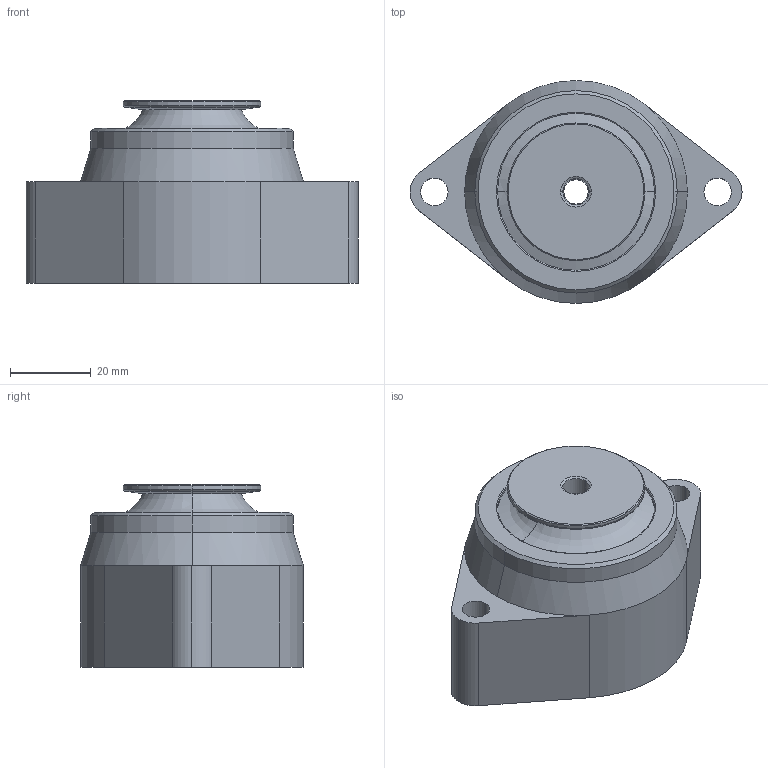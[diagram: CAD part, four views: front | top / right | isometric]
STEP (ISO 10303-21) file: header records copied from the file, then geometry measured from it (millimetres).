
FILE_DESCRIPTION(('STEP AP214'),'1');
FILE_NAME('C:/Transfer Dokumente/50-ZDMF.stp','2020-09-15T12:19:29',(' '),(' '),'Spatial InterOp 3D',' ',' ');
FILE_SCHEMA(('automotive_design'));
Length unit declared in the file: millimetre
Products named in the file (1): 1
Bounding box: 82 x 55 x 45 mm (x, y, z)
Volume: 80110 mm3; surface area: 21155.7 mm2
Topology: 1 solids, 6 shells, 123 faces, 269 edges, 151 vertices
Faces by surface type: cylinder 40, cone 38, torus 34, plane 11
Entity records: 3399 total; most frequent: DIRECTION 696, CARTESIAN_POINT 544, ORIENTED_EDGE 538, AXIS2_PLACEMENT_3D 303, EDGE_CURVE 269, CIRCLE 179, VERTEX_POINT 151, EDGE_LOOP 132
